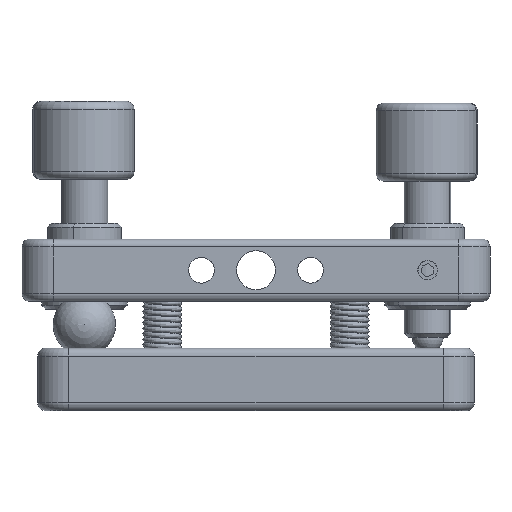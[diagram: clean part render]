
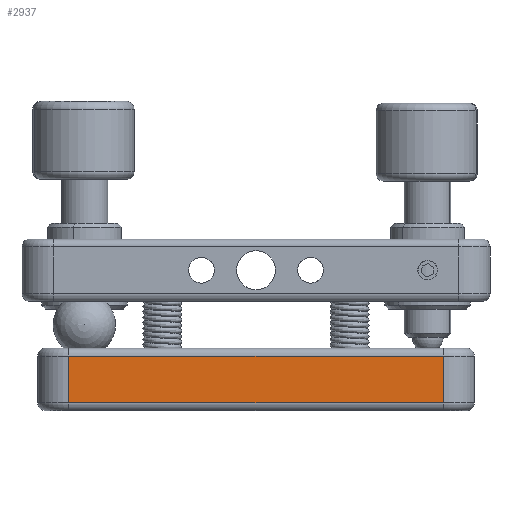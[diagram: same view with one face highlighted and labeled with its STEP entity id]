
A CAD part, front view. The second image highlights one B-rep face of the part: STEP entity #2937.
In plain terms, the highlighted planar face has unit normal (0, -1, 0).
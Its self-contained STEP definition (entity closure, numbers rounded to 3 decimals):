
#1060 = LINE ( 'NONE', #7891, #9230 ) ;
#1296 = CARTESIAN_POINT ( 'NONE',  ( 24., -28., -17. ) ) ;
#1797 = VERTEX_POINT ( 'NONE', #14052 ) ;
#2057 = LINE ( 'NONE', #12124, #5921 ) ;
#2294 = CARTESIAN_POINT ( 'NONE',  ( -28., -28., -10. ) ) ;
#2937 = ADVANCED_FACE ( 'NONE', ( #7146 ), #12324, .F. ) ;
#4556 = EDGE_CURVE ( 'NONE', #6081, #11211, #10269, .T. ) ;
#4776 = DIRECTION ( 'NONE',  ( -1., 0., 0. ) ) ;
#5921 = VECTOR ( 'NONE', #7875, 1000. ) ;
#6081 = VERTEX_POINT ( 'NONE', #10158 ) ;
#6634 = CARTESIAN_POINT ( 'NONE',  ( -24., -28., -11. ) ) ;
#6734 = ORIENTED_EDGE ( 'NONE', *, *, #15689, .T. ) ;
#7139 = EDGE_LOOP ( 'NONE', ( #17892, #11554, #6734, #7852 ) ) ;
#7146 = FACE_OUTER_BOUND ( 'NONE', #7139, .T. ) ;
#7852 = ORIENTED_EDGE ( 'NONE', *, *, #8793, .T. ) ;
#7875 = DIRECTION ( 'NONE',  ( 0., 0., 1. ) ) ;
#7891 = CARTESIAN_POINT ( 'NONE',  ( -24., -28., -10. ) ) ;
#8152 = DIRECTION ( 'NONE',  ( 0., 1., 0. ) ) ;
#8793 = EDGE_CURVE ( 'NONE', #1797, #16445, #17092, .T. ) ;
#9230 = VECTOR ( 'NONE', #9341, 1000. ) ;
#9341 = DIRECTION ( 'NONE',  ( 0., 0., -1. ) ) ;
#9815 = VECTOR ( 'NONE', #17128, 1000. ) ;
#9954 = VECTOR ( 'NONE', #4776, 1000. ) ;
#10158 = CARTESIAN_POINT ( 'NONE',  ( -24., -28., -17. ) ) ;
#10269 = LINE ( 'NONE', #1296, #9815 ) ;
#11211 = VERTEX_POINT ( 'NONE', #14214 ) ;
#11554 = ORIENTED_EDGE ( 'NONE', *, *, #4556, .T. ) ;
#12124 = CARTESIAN_POINT ( 'NONE',  ( 24., -28., -10. ) ) ;
#12324 = PLANE ( 'NONE',  #17843 ) ;
#12795 = EDGE_CURVE ( 'NONE', #16445, #6081, #1060, .T. ) ;
#13331 = CARTESIAN_POINT ( 'NONE',  ( -28., -28., -11. ) ) ;
#14052 = CARTESIAN_POINT ( 'NONE',  ( 24., -28., -11. ) ) ;
#14214 = CARTESIAN_POINT ( 'NONE',  ( 24., -28., -17. ) ) ;
#15689 = EDGE_CURVE ( 'NONE', #11211, #1797, #2057, .T. ) ;
#16445 = VERTEX_POINT ( 'NONE', #6634 ) ;
#17092 = LINE ( 'NONE', #13331, #9954 ) ;
#17128 = DIRECTION ( 'NONE',  ( 1., 0., 0. ) ) ;
#17843 = AXIS2_PLACEMENT_3D ( 'NONE', #2294, #8152, #18167 ) ;
#17892 = ORIENTED_EDGE ( 'NONE', *, *, #12795, .T. ) ;
#18167 = DIRECTION ( 'NONE',  ( 0., 0., 1. ) ) ;
